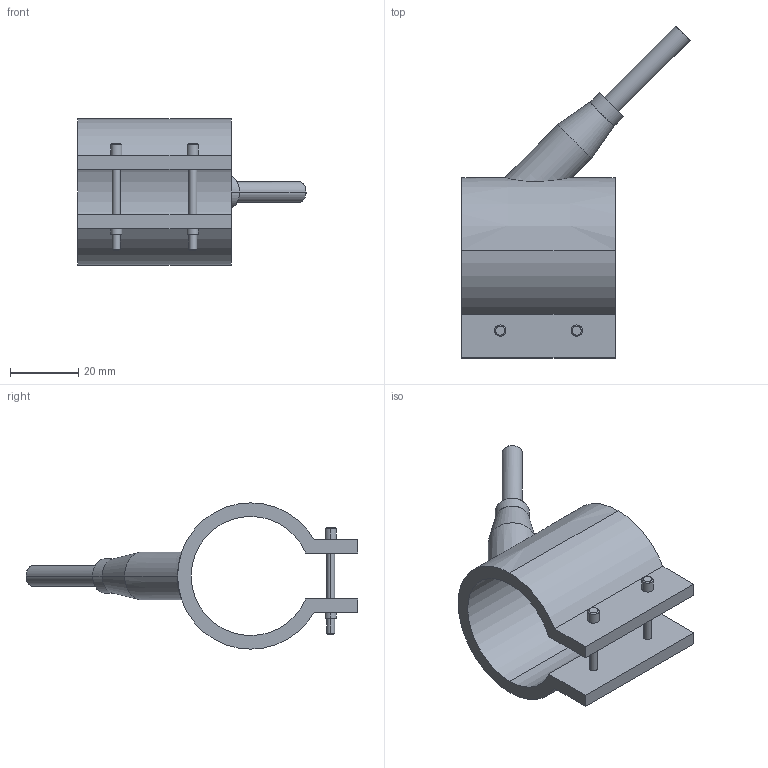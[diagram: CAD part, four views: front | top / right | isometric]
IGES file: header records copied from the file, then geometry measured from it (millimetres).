
Start section: START RECORD GO HERE.
Global section: file name: 29035045.igs; native system: DASSAULT SYSTEMES CATIA V5 R20 - www.3ds.com; preprocessor: CATIA Version 5 Release 20 ; author: Utente; organization: NB04-ASUS; date: 20210327.095916; units: millimetre
Bounding box: 67.05 x 97.55 x 43 mm (x, y, z)
Surface area: 15376.8 mm2 (no closed solid volume)
Topology: 0 solids, 0 shells, 54 faces, 246 edges, 246 vertices
Faces by surface type: revolution 38, plane 16
